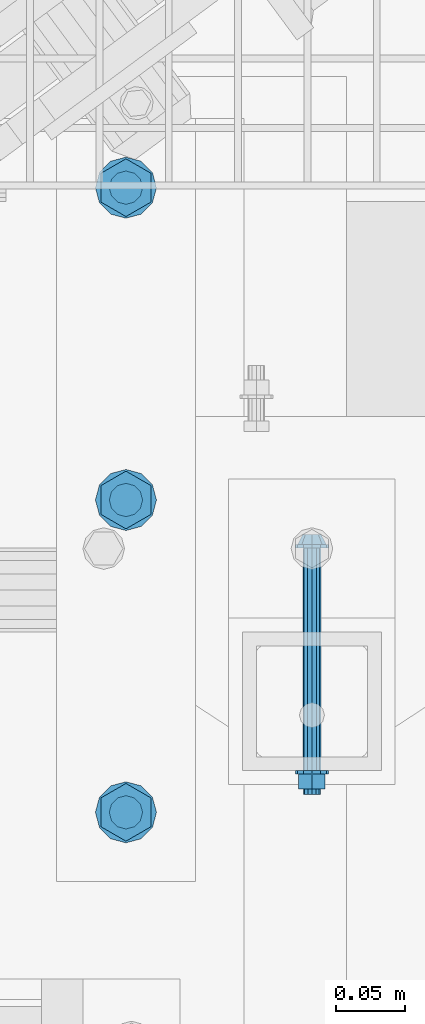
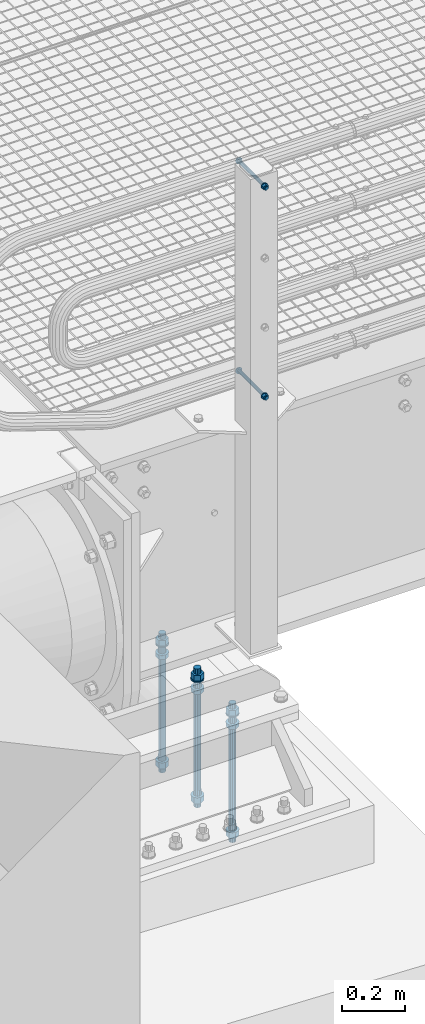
# One storey, part 5 of 1530: 4 mechanical fasteners.
"""IFC2X3 building model written with IfcOpenShell, lengths in millimetres."""

from ifc_helpers import new_model, si_unit, frame, origin_with_axes, place, context, subcontext, project, spatial, faceted_brep, source, transform, mapped, material, type_object, element, save


model = new_model("IFC2X3")

# Units and contexts
model_context = context("Model", 3, precision=1e-05, world=origin_with_axes())
body_context = subcontext(model_context, "Body", "Model", "MODEL_VIEW")
ifc_project = project(units=[si_unit("LENGTHUNIT", "METRE", prefix="MILLI"), si_unit("AREAUNIT", "SQUARE_METRE"), si_unit("VOLUMEUNIT", "CUBIC_METRE"), si_unit("MASSUNIT", "GRAM", prefix="KILO"), si_unit("TIMEUNIT", "SECOND"), si_unit("PLANEANGLEUNIT", "RADIAN"), si_unit("SOLIDANGLEUNIT", "STERADIAN"), si_unit("THERMODYNAMICTEMPERATUREUNIT", "DEGREE_CELSIUS"), si_unit("LUMINOUSINTENSITYUNIT", "LUMEN")], contexts=[model_context])

# Site, building, storey
site_placement = place(None, origin_with_axes())
site = spatial("IfcSite", under=ifc_project, at=site_placement, Name="Brattvåg", CompositionType="ELEMENT")
building_placement = place(site_placement, origin_with_axes())
building = spatial("IfcBuilding", under=site, at=building_placement, Name="Undefined", CompositionType="ELEMENT")
storey_placement = place(building_placement, origin_with_axes())
storey = spatial("IfcBuildingStorey", under=building, at=storey_placement, Name="Undefined", CompositionType="ELEMENT", Elevation=0.0)

# Mechanical fasteners
ifc_material = material(Name="8")
mechanical_fastener_type = type_object("IfcMechanicalFastenerType", Name="Bolt assembly")
shared_shape_1 = source(origin_with_axes(), body_context, "Body", "Brep", [
    faceted_brep([(20.7846096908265, -49.0000000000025, 0.0), (10.3923048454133, -49.0000000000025, 18.0), (-10.3923048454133, -49.0000000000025, 18.0), (-20.7846096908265, -49.0000000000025, 2.54538057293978e-15), (-10.3923048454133, -49.0000000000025, -18.0), (10.3923048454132, -49.0000000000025, -18.0), (10.3923048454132, -34.0000000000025, -18.0), (-10.3923048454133, -34.0000000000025, -18.0), (-20.7846096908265, -34.0000000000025, 2.54538057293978e-15), (-10.3923048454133, -34.0000000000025, 18.0), (10.3923048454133, -34.0000000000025, 18.0), (20.7846096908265, -34.0000000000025, 0.0), (12.0, -34.0000000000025, 0.0), (10.3923048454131, -34.0000000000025, 6.00000000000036), (5.99999999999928, -34.0000000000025, 10.3923048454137), (-1.24360317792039e-12, -34.0000000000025, 12.0), (-6.00000000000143, -34.0000000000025, 10.3923048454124), (-10.3923048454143, -34.0000000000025, 5.99999999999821), (-12.0, -34.0000000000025, -2.48720635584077e-12), (-10.3923048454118, -34.0000000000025, -6.00000000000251), (-5.99999999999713, -34.0000000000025, -10.3923048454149), (3.71748685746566e-12, -34.0000000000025, -12.0), (6.00000000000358, -34.0000000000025, -10.3923048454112), (10.3923048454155, -34.0000000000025, -5.99999999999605), (10.3923048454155, 46.0, -5.99999999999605), (6.00000000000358, 46.0, -10.3923048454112), (3.71748685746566e-12, 46.0, -12.0), (-5.99999999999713, 46.0, -10.3923048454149), (-10.3923048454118, 46.0, -6.00000000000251), (-12.0, 46.0, -2.48720635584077e-12), (-10.3923048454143, 46.0, 5.99999999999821), (-6.00000000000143, 46.0, 10.3923048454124), (-1.24360317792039e-12, 46.0, 12.0), (5.99999999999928, 46.0, 10.3923048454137), (10.3923048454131, 46.0, 6.00000000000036), (12.0, 46.0, 0.0), (22.0, -34.0000000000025, 0.0), (19.0525588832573, -34.0000000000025, 11.0000000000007), (10.9999999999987, -34.0000000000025, 19.0525588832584), (-2.27993915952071e-12, -34.0000000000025, 22.0), (-11.0000000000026, -34.0000000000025, 19.0525588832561), (-19.0525588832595, -34.0000000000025, 10.9999999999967), (-22.0, -34.0000000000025, -4.55987831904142e-12), (-19.052558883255, -34.0000000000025, -11.0000000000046), (-10.9999999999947, -34.0000000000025, -19.0525588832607), (6.81539257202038e-12, -34.0000000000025, -22.0), (11.0000000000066, -34.0000000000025, -19.0525588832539), (19.0525588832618, -34.0000000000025, -10.9999999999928), (19.0525588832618, -30.0000000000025, -10.9999999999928), (11.0000000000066, -30.0000000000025, -19.0525588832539), (6.81539257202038e-12, -30.0000000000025, -22.0), (-10.9999999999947, -30.0000000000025, -19.0525588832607), (-19.052558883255, -30.0000000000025, -11.0000000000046), (-22.0, -30.0000000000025, -4.55987831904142e-12), (-19.0525588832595, -30.0000000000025, 10.9999999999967), (-11.0000000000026, -30.0000000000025, 19.0525588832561), (-2.27993915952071e-12, -30.0000000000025, 22.0), (10.9999999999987, -30.0000000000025, 19.0525588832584), (19.0525588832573, -30.0000000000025, 11.0000000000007), (22.0, -30.0000000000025, 0.0), (22.0, 0.0, 0.0), (19.0525588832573, 0.0, 11.0000000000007), (10.9999999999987, 0.0, 19.0525588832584), (-2.27993915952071e-12, 0.0, 22.0), (-11.0000000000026, 0.0, 19.0525588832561), (-19.0525588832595, 0.0, 10.9999999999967), (-22.0, 0.0, -4.55987831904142e-12), (-19.052558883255, 0.0, -11.0000000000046), (-10.9999999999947, 0.0, -19.0525588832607), (6.81539257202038e-12, 0.0, -22.0), (11.0000000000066, 0.0, -19.0525588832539), (19.0525588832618, 0.0, -10.9999999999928), (19.0525588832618, 4.0, -10.9999999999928), (11.0000000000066, 4.0, -19.0525588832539), (6.81539257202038e-12, 4.0, -22.0), (-10.9999999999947, 4.0, -19.0525588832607), (-19.052558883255, 4.0, -11.0000000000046), (-22.0, 4.0, -4.55987831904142e-12), (-19.0525588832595, 4.0, 10.9999999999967), (-11.0000000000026, 4.0, 19.0525588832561), (-2.27993915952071e-12, 4.0, 22.0), (10.9999999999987, 4.0, 19.0525588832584), (19.0525588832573, 4.0, 11.0000000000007), (22.0, 4.0, 0.0), (20.7846096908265, 4.0, 0.0), (10.3923048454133, 4.0, 18.0), (-10.3923048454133, 4.0, 18.0), (-20.7846096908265, 4.0, 2.54538057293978e-15), (-10.3923048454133, 4.0, -18.0), (10.3923048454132, 4.0, -18.0), (10.3923048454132, 25.5, -18.0), (-10.3923048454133, 25.5, -18.0), (-20.7846096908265, 25.5, 2.54538057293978e-15), (-10.3923048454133, 25.5, 18.0), (10.3923048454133, 25.5, 18.0), (20.7846096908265, 25.5, 0.0)], [[[0, 1, 2, 3, 4, 5]], [[6, 7, 8, 9, 10, 11]], [[0, 11, 10, 1]], [[1, 10, 9, 2]], [[2, 9, 8, 3]], [[3, 8, 7, 4]], [[4, 7, 6, 5]], [[5, 6, 11, 0]], [[12, 13, 14, 15, 16, 17, 18, 19, 20, 21, 22, 23]], [[24, 25, 26, 27, 28, 29, 30, 31, 32, 33, 34, 35]], [[12, 35, 34, 13]], [[13, 34, 33, 14]], [[14, 33, 32, 15]], [[15, 32, 31, 16]], [[16, 31, 30, 17]], [[17, 30, 29, 18]], [[18, 29, 28, 19]], [[19, 28, 27, 20]], [[20, 27, 26, 21]], [[21, 26, 25, 22]], [[22, 25, 24, 23]], [[23, 24, 35, 12]], [[36, 37, 38, 39, 40, 41, 42, 43, 44, 45, 46, 47]], [[48, 49, 50, 51, 52, 53, 54, 55, 56, 57, 58, 59]], [[36, 59, 58, 37]], [[37, 58, 57, 38]], [[38, 57, 56, 39]], [[39, 56, 55, 40]], [[40, 55, 54, 41]], [[41, 54, 53, 42]], [[42, 53, 52, 43]], [[43, 52, 51, 44]], [[44, 51, 50, 45]], [[45, 50, 49, 46]], [[46, 49, 48, 47]], [[47, 48, 59, 36]], [[60, 61, 62, 63, 64, 65, 66, 67, 68, 69, 70, 71]], [[72, 73, 74, 75, 76, 77, 78, 79, 80, 81, 82, 83]], [[60, 83, 82, 61]], [[61, 82, 81, 62]], [[62, 81, 80, 63]], [[63, 80, 79, 64]], [[64, 79, 78, 65]], [[65, 78, 77, 66]], [[66, 77, 76, 67]], [[67, 76, 75, 68]], [[68, 75, 74, 69]], [[69, 74, 73, 70]], [[70, 73, 72, 71]], [[71, 72, 83, 60]], [[84, 85, 86, 87, 88, 89]], [[90, 91, 92, 93, 94, 95]], [[84, 95, 94, 85]], [[85, 94, 93, 86]], [[86, 93, 92, 87]], [[87, 92, 91, 88]], [[88, 91, 90, 89]], [[89, 90, 95, 84]]]),
    faceted_brep([(13.0, -30.0, 0.0), (11.2583302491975, -30.0, 6.50000000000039), (6.49999999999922, -30.0, 11.2583302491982), (-1.34723677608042e-12, -30.0, 13.0), (-6.50000000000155, -30.0, 11.2583302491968), (-11.2583302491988, -30.0, 6.49999999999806), (-13.0, -30.0, -2.69447355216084e-12), (-11.2583302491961, -30.0, -6.50000000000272), (-6.4999999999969, -30.0, -11.2583302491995), (4.02727742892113e-12, -30.0, -13.0), (6.50000000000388, -30.0, -11.2583302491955), (11.2583302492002, -30.0, -6.49999999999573), (11.2583302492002, 0.0999999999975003, -6.49999999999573), (6.50000000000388, 0.0999999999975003, -11.2583302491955), (4.02727742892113e-12, 0.0999999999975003, -13.0), (-6.4999999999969, 0.0999999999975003, -11.2583302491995), (-11.2583302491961, 0.0999999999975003, -6.50000000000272), (-13.0, 0.0999999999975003, -2.69447355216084e-12), (-11.2583302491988, 0.0999999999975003, 6.49999999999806), (-6.50000000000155, 0.0999999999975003, 11.2583302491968), (-1.34723677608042e-12, 0.0999999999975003, 13.0), (6.49999999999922, 0.0999999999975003, 11.2583302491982), (11.2583302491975, 0.0999999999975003, 6.50000000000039), (13.0, 0.0999999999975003, 0.0)], [[[0, 1, 2, 3, 4, 5, 6, 7, 8, 9, 10, 11]], [[12, 13, 14, 15, 16, 17, 18, 19, 20, 21, 22, 23]], [[0, 23, 22, 1]], [[1, 22, 21, 2]], [[2, 21, 20, 3]], [[3, 20, 19, 4]], [[4, 19, 18, 5]], [[5, 18, 17, 6]], [[6, 17, 16, 7]], [[7, 16, 15, 8]], [[8, 15, 14, 9]], [[9, 14, 13, 10]], [[10, 13, 12, 11]], [[11, 12, 23, 0]]]),
])
mechanical_fastener_1_placement = place(storey_placement, frame((416.009799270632, 160.001182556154, -1028.00001144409), z_axis=(-1.0, 1.99999855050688e-09, 0.0), x_axis=(0.0, -1.0, 0.0)))
element("IfcMechanicalFastener", 1, at=mechanical_fastener_1_placement, inside=storey, type_object=mechanical_fastener_type, material=ifc_material, Name="Bolt assembly", NominalDiameter=24.0, NominalLength=80.0, context=body_context, shape_type="MappedRepresentation", body=[
    mapped(shared_shape_1, transform((0.0, 0.0, 0.0))),
    mapped(shared_shape_1, transform((225.0, 0.0, 0.0))),
    mapped(shared_shape_1, transform((450.0, 0.0, 0.0))),
])
shared_shape_2 = source(origin_with_axes(), body_context, "Body", "Brep", [
    faceted_brep([(20.7846096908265, -19.0, 0.0), (10.3923048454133, -19.0, 18.0), (-10.3923048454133, -19.0, 18.0), (-20.7846096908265, -19.0, 2.54538057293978e-15), (-10.3923048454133, -19.0, -18.0), (10.3923048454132, -19.0, -18.0), (10.3923048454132, -4.0, -18.0), (-10.3923048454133, -4.0, -18.0), (-20.7846096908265, -4.0, 2.54538057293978e-15), (-10.3923048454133, -4.0, 18.0), (10.3923048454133, -4.0, 18.0), (20.7846096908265, -4.0, 0.0), (12.0, -4.0, 0.0), (10.3923048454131, -4.0, 6.00000000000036), (5.99999999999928, -4.0, 10.3923048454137), (-1.24360317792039e-12, -4.0, 12.0), (-6.00000000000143, -4.0, 10.3923048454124), (-10.3923048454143, -4.0, 5.99999999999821), (-12.0, -4.0, -2.48720635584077e-12), (-10.3923048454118, -4.0, -6.00000000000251), (-5.99999999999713, -4.0, -10.3923048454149), (3.71748685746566e-12, -4.0, -12.0), (6.00000000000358, -4.0, -10.3923048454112), (10.3923048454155, -4.0, -5.99999999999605), (10.3923048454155, 496.0, -5.99999999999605), (6.00000000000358, 496.0, -10.3923048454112), (3.71748685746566e-12, 496.0, -12.0), (-5.99999999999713, 496.0, -10.3923048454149), (-10.3923048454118, 496.0, -6.00000000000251), (-12.0, 496.0, -2.48720635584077e-12), (-10.3923048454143, 496.0, 5.99999999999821), (-6.00000000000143, 496.0, 10.3923048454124), (-1.24360317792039e-12, 496.0, 12.0), (5.99999999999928, 496.0, 10.3923048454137), (10.3923048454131, 496.0, 6.00000000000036), (12.0, 496.0, 0.0), (22.0, -4.0, 0.0), (19.0525588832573, -4.0, 11.0000000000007), (10.9999999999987, -4.0, 19.0525588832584), (-2.27993915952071e-12, -4.0, 22.0), (-11.0000000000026, -4.0, 19.0525588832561), (-19.0525588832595, -4.0, 10.9999999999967), (-22.0, -4.0, -4.55987831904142e-12), (-19.052558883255, -4.0, -11.0000000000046), (-10.9999999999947, -4.0, -19.0525588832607), (6.81539257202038e-12, -4.0, -22.0), (11.0000000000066, -4.0, -19.0525588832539), (19.0525588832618, -4.0, -10.9999999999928), (19.0525588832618, 0.0, -10.9999999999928), (11.0000000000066, 0.0, -19.0525588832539), (6.81539257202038e-12, 0.0, -22.0), (-10.9999999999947, 0.0, -19.0525588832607), (-19.052558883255, 0.0, -11.0000000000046), (-22.0, 0.0, -4.55987831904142e-12), (-19.0525588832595, 0.0, 10.9999999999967), (-11.0000000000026, 0.0, 19.0525588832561), (-2.27993915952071e-12, 0.0, 22.0), (10.9999999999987, 0.0, 19.0525588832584), (19.0525588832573, 0.0, 11.0000000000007), (22.0, 0.0, 0.0), (22.0, 450.00030517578, 0.0), (19.0525588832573, 450.00030517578, 11.0000000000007), (10.9999999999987, 450.00030517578, 19.0525588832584), (-2.27993915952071e-12, 450.00030517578, 22.0), (-11.0000000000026, 450.00030517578, 19.0525588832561), (-19.0525588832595, 450.00030517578, 10.9999999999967), (-22.0, 450.00030517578, -4.55987831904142e-12), (-19.052558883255, 450.00030517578, -11.0000000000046), (-10.9999999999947, 450.00030517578, -19.0525588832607), (6.81539257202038e-12, 450.00030517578, -22.0), (11.0000000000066, 450.00030517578, -19.0525588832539), (19.0525588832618, 450.00030517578, -10.9999999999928), (19.0525588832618, 454.00030517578, -10.9999999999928), (11.0000000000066, 454.00030517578, -19.0525588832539), (6.81539257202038e-12, 454.00030517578, -22.0), (-10.9999999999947, 454.00030517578, -19.0525588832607), (-19.052558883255, 454.00030517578, -11.0000000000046), (-22.0, 454.00030517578, -4.55987831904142e-12), (-19.0525588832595, 454.00030517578, 10.9999999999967), (-11.0000000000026, 454.00030517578, 19.0525588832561), (-2.27993915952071e-12, 454.00030517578, 22.0), (10.9999999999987, 454.00030517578, 19.0525588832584), (19.0525588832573, 454.00030517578, 11.0000000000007), (22.0, 454.00030517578, 0.0), (20.7846096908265, 454.00030517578, 0.0), (10.3923048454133, 454.00030517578, 18.0), (-10.3923048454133, 454.00030517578, 18.0), (-20.7846096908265, 454.00030517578, 2.54538057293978e-15), (-10.3923048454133, 454.00030517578, -18.0), (10.3923048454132, 454.00030517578, -18.0), (10.3923048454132, 475.50030517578, -18.0), (-10.3923048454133, 475.50030517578, -18.0), (-20.7846096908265, 475.50030517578, 2.54538057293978e-15), (-10.3923048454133, 475.50030517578, 18.0), (10.3923048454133, 475.50030517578, 18.0), (20.7846096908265, 475.50030517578, 0.0)], [[[0, 1, 2, 3, 4, 5]], [[6, 7, 8, 9, 10, 11]], [[0, 11, 10, 1]], [[1, 10, 9, 2]], [[2, 9, 8, 3]], [[3, 8, 7, 4]], [[4, 7, 6, 5]], [[5, 6, 11, 0]], [[12, 13, 14, 15, 16, 17, 18, 19, 20, 21, 22, 23]], [[24, 25, 26, 27, 28, 29, 30, 31, 32, 33, 34, 35]], [[12, 35, 34, 13]], [[13, 34, 33, 14]], [[14, 33, 32, 15]], [[15, 32, 31, 16]], [[16, 31, 30, 17]], [[17, 30, 29, 18]], [[18, 29, 28, 19]], [[19, 28, 27, 20]], [[20, 27, 26, 21]], [[21, 26, 25, 22]], [[22, 25, 24, 23]], [[23, 24, 35, 12]], [[36, 37, 38, 39, 40, 41, 42, 43, 44, 45, 46, 47]], [[48, 49, 50, 51, 52, 53, 54, 55, 56, 57, 58, 59]], [[36, 59, 58, 37]], [[37, 58, 57, 38]], [[38, 57, 56, 39]], [[39, 56, 55, 40]], [[40, 55, 54, 41]], [[41, 54, 53, 42]], [[42, 53, 52, 43]], [[43, 52, 51, 44]], [[44, 51, 50, 45]], [[45, 50, 49, 46]], [[46, 49, 48, 47]], [[47, 48, 59, 36]], [[60, 61, 62, 63, 64, 65, 66, 67, 68, 69, 70, 71]], [[72, 73, 74, 75, 76, 77, 78, 79, 80, 81, 82, 83]], [[60, 83, 82, 61]], [[61, 82, 81, 62]], [[62, 81, 80, 63]], [[63, 80, 79, 64]], [[64, 79, 78, 65]], [[65, 78, 77, 66]], [[66, 77, 76, 67]], [[67, 76, 75, 68]], [[68, 75, 74, 69]], [[69, 74, 73, 70]], [[70, 73, 72, 71]], [[71, 72, 83, 60]], [[84, 85, 86, 87, 88, 89]], [[90, 91, 92, 93, 94, 95]], [[84, 95, 94, 85]], [[85, 94, 93, 86]], [[86, 93, 92, 87]], [[87, 92, 91, 88]], [[88, 91, 90, 89]], [[89, 90, 95, 84]]]),
    faceted_brep([(13.0, 0.0999999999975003, 0.0), (11.2583302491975, 0.0999999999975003, 6.50000000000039), (6.49999999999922, 0.0999999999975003, 11.2583302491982), (-1.34723677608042e-12, 0.0999999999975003, 13.0), (-6.50000000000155, 0.0999999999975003, 11.2583302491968), (-11.2583302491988, 0.0999999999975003, 6.49999999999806), (-13.0, 0.0999999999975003, -2.69447355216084e-12), (-11.2583302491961, 0.0999999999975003, -6.50000000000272), (-6.4999999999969, 0.0999999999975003, -11.2583302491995), (4.02727742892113e-12, 0.0999999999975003, -13.0), (6.50000000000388, 0.0999999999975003, -11.2583302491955), (11.2583302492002, 0.0999999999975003, -6.49999999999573), (11.2583302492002, 30.1, -6.49999999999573), (6.50000000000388, 30.1, -11.2583302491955), (4.02727742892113e-12, 30.1, -13.0), (-6.4999999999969, 30.1, -11.2583302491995), (-11.2583302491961, 30.1, -6.50000000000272), (-13.0, 30.1, -2.69447355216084e-12), (-11.2583302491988, 30.1, 6.49999999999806), (-6.50000000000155, 30.1, 11.2583302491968), (-1.34723677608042e-12, 30.1, 13.0), (6.49999999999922, 30.1, 11.2583302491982), (11.2583302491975, 30.1, 6.50000000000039), (13.0, 30.1, 0.0), (13.0, 429.90030517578, 0.0), (11.2583302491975, 429.90030517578, 6.50000000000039), (6.49999999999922, 429.90030517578, 11.2583302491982), (-1.34723677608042e-12, 429.90030517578, 13.0), (-6.50000000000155, 429.90030517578, 11.2583302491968), (-11.2583302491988, 429.90030517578, 6.49999999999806), (-13.0, 429.90030517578, -2.69447355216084e-12), (-11.2583302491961, 429.90030517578, -6.50000000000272), (-6.4999999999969, 429.90030517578, -11.2583302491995), (4.02727742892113e-12, 429.90030517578, -13.0), (6.50000000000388, 429.90030517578, -11.2583302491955), (11.2583302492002, 429.90030517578, -6.49999999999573), (11.2583302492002, 450.00030517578, -6.49999999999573), (6.50000000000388, 450.00030517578, -11.2583302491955), (4.02727742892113e-12, 450.00030517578, -13.0), (-6.4999999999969, 450.00030517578, -11.2583302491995), (-11.2583302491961, 450.00030517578, -6.50000000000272), (-13.0, 450.00030517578, -2.69447355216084e-12), (-11.2583302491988, 450.00030517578, 6.49999999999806), (-6.50000000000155, 450.00030517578, 11.2583302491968), (-1.34723677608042e-12, 450.00030517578, 13.0), (6.49999999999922, 450.00030517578, 11.2583302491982), (11.2583302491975, 450.00030517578, 6.50000000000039), (13.0, 450.00030517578, 0.0)], [[[0, 1, 2, 3, 4, 5, 6, 7, 8, 9, 10, 11]], [[12, 13, 14, 15, 16, 17, 18, 19, 20, 21, 22, 23]], [[0, 23, 22, 1]], [[1, 22, 21, 2]], [[2, 21, 20, 3]], [[3, 20, 19, 4]], [[4, 19, 18, 5]], [[5, 18, 17, 6]], [[6, 17, 16, 7]], [[7, 16, 15, 8]], [[8, 15, 14, 9]], [[9, 14, 13, 10]], [[10, 13, 12, 11]], [[11, 12, 23, 0]], [[24, 25, 26, 27, 28, 29, 30, 31, 32, 33, 34, 35]], [[36, 37, 38, 39, 40, 41, 42, 43, 44, 45, 46, 47]], [[24, 47, 46, 25]], [[25, 46, 45, 26]], [[26, 45, 44, 27]], [[27, 44, 43, 28]], [[28, 43, 42, 29]], [[29, 42, 41, 30]], [[30, 41, 40, 31]], [[31, 40, 39, 32]], [[32, 39, 38, 33]], [[33, 38, 37, 34]], [[34, 37, 36, 35]], [[35, 36, 47, 24]]]),
])
mechanical_fastener_2_placement = place(storey_placement, frame((416.009799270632, 160.001182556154, -1028.00001144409), z_axis=(1.0, 0.0, 0.0), x_axis=(0.0, -1.0, 0.0)))
element("IfcMechanicalFastener", 2, at=mechanical_fastener_2_placement, inside=storey, type_object=mechanical_fastener_type, material=ifc_material, Name="Bolt assembly", NominalDiameter=24.0, NominalLength=500.0, context=body_context, shape_type="MappedRepresentation", body=[
    mapped(shared_shape_2, transform((0.0, 0.0, 0.0))),
    mapped(shared_shape_2, transform((225.0, 0.0, 0.0))),
    mapped(shared_shape_2, transform((450.0, 0.0, 0.0))),
])
shared_shape_3 = source(origin_with_axes(), body_context, "Body", "Brep", [
    faceted_brep([(6.49435320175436, -9.99984019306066, 0.0), (4.59220118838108, -9.99984019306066, 4.59220118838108), (3.97664443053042e-16, -9.99984019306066, 6.49435320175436), (-4.59220118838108, -9.99984019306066, 4.59220118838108), (-6.49435320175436, -9.99984019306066, 7.95328886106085e-16), (-4.59220118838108, -9.99984019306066, -4.59220118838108), (-1.19299332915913e-15, -9.99984019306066, -6.49435320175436), (4.59220118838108, -9.99984019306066, -4.59220118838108), (7.34846922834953, -2.49984019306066, -7.34846922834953), (-1.90903542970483e-15, -2.49984019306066, -10.3923048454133), (-7.34846922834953, -2.49984019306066, -7.34846922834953), (-10.3923048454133, -2.49984019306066, 1.27269028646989e-15), (-7.34846922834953, -2.49984019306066, 7.34846922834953), (6.36345143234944e-16, -2.49984019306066, 10.3923048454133), (7.34846922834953, -2.49984019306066, 7.34846922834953), (10.3923048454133, -2.49984019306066, 0.0), (6.0, -2.49984019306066, 0.0), (5.19615242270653, -2.49984019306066, 3.00000000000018), (2.99999999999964, -2.49984019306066, 5.19615242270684), (-6.21801588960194e-13, -2.49984019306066, 6.0), (-3.00000000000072, -2.49984019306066, 5.19615242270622), (-5.19615242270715, -2.49984019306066, 2.9999999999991), (-6.0, -2.49984019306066, -1.24360317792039e-12), (-5.19615242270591, -2.49984019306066, -3.00000000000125), (-2.99999999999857, -2.49984019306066, -5.19615242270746), (1.85874342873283e-12, -2.49984019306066, -6.0), (3.00000000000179, -2.49984019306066, -5.1961524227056), (5.19615242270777, -2.49984019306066, -2.99999999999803), (5.19615242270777, 177.500159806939, -2.99999999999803), (3.00000000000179, 177.500159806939, -5.1961524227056), (1.85874342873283e-12, 177.500159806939, -6.0), (-2.99999999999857, 177.500159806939, -5.19615242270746), (-5.19615242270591, 177.500159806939, -3.00000000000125), (-6.0, 177.500159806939, -1.24360317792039e-12), (-5.19615242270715, 177.500159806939, 2.9999999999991), (-3.00000000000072, 177.500159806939, 5.19615242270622), (-6.21801588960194e-13, 177.500159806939, 6.0), (2.99999999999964, 177.500159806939, 5.19615242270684), (5.19615242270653, 177.500159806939, 3.00000000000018), (6.0, 177.500159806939, 0.0), (12.0, -2.49984019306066, 0.0), (10.3923048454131, -2.49984019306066, 6.00000000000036), (5.99999999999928, -2.49984019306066, 10.3923048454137), (-1.24360317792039e-12, -2.49984019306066, 12.0), (-6.00000000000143, -2.49984019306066, 10.3923048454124), (-10.3923048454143, -2.49984019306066, 5.99999999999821), (-12.0, -2.49984019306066, -2.48720635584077e-12), (-10.3923048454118, -2.49984019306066, -6.00000000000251), (-5.99999999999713, -2.49984019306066, -10.3923048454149), (3.71748685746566e-12, -2.49984019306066, -12.0), (6.00000000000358, -2.49984019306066, -10.3923048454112), (10.3923048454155, -2.49984019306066, -5.99999999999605), (10.3923048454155, 0.000159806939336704, -5.99999999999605), (6.00000000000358, 0.000159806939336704, -10.3923048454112), (3.71748685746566e-12, 0.000159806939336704, -12.0), (-5.99999999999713, 0.000159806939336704, -10.3923048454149), (-10.3923048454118, 0.000159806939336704, -6.00000000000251), (-12.0, 0.000159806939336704, -2.48720635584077e-12), (-10.3923048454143, 0.000159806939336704, 5.99999999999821), (-6.00000000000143, 0.000159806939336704, 10.3923048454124), (-1.24360317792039e-12, 0.000159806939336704, 12.0), (5.99999999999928, 0.000159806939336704, 10.3923048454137), (10.3923048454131, 0.000159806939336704, 6.00000000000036), (12.0, 0.000159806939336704, 0.0), (12.0, 160.299998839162, 0.0), (10.3923048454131, 160.299998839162, 6.00000000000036), (5.99999999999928, 160.299998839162, 10.3923048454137), (-1.24360317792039e-12, 160.299998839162, 12.0), (-6.00000000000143, 160.299998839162, 10.3923048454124), (-10.3923048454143, 160.299998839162, 5.99999999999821), (-12.0, 160.299998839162, -2.48720635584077e-12), (-10.3923048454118, 160.299998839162, -6.00000000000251), (-5.99999999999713, 160.299998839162, -10.3923048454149), (3.71748685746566e-12, 160.299998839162, -12.0), (6.00000000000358, 160.299998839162, -10.3923048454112), (10.3923048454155, 160.299998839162, -5.99999999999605), (10.3923048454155, 162.799998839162, -5.99999999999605), (6.00000000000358, 162.799998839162, -10.3923048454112), (3.71748685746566e-12, 162.799998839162, -12.0), (-5.99999999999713, 162.799998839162, -10.3923048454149), (-10.3923048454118, 162.799998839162, -6.00000000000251), (-12.0, 162.799998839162, -2.48720635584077e-12), (-10.3923048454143, 162.799998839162, 5.99999999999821), (-6.00000000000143, 162.799998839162, 10.3923048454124), (-1.24360317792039e-12, 162.799998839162, 12.0), (5.99999999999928, 162.799998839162, 10.3923048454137), (10.3923048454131, 162.799998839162, 6.00000000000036), (12.0, 162.799998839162, 0.0), (10.9696551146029, 162.799998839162, 0.0), (5.48482755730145, 162.799998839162, 9.5), (-5.48482755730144, 162.799998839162, 9.5), (-10.9696551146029, 162.799998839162, 1.34339530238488e-15), (-5.48482755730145, 162.799998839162, -9.5), (5.48482755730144, 162.799998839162, -9.5), (5.48482755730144, 173.599999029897, -9.5), (-5.48482755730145, 173.599999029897, -9.5), (-10.9696551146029, 173.599999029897, 1.34339530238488e-15), (-5.48482755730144, 173.599999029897, 9.5), (5.48482755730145, 173.599999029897, 9.5), (10.9696551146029, 173.599999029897, 0.0)], [[[0, 1, 2, 3, 4, 5, 6, 7]], [[8, 9, 10, 11, 12, 13, 14, 15]], [[0, 15, 14, 1]], [[1, 14, 13, 2]], [[2, 13, 12, 3]], [[3, 12, 11, 4]], [[4, 11, 10, 5]], [[5, 10, 9, 6]], [[6, 9, 8, 7]], [[7, 8, 15, 0]], [[16, 17, 18, 19, 20, 21, 22, 23, 24, 25, 26, 27]], [[28, 29, 30, 31, 32, 33, 34, 35, 36, 37, 38, 39]], [[16, 39, 38, 17]], [[17, 38, 37, 18]], [[18, 37, 36, 19]], [[19, 36, 35, 20]], [[20, 35, 34, 21]], [[21, 34, 33, 22]], [[22, 33, 32, 23]], [[23, 32, 31, 24]], [[24, 31, 30, 25]], [[25, 30, 29, 26]], [[26, 29, 28, 27]], [[27, 28, 39, 16]], [[40, 41, 42, 43, 44, 45, 46, 47, 48, 49, 50, 51]], [[52, 53, 54, 55, 56, 57, 58, 59, 60, 61, 62, 63]], [[40, 63, 62, 41]], [[41, 62, 61, 42]], [[42, 61, 60, 43]], [[43, 60, 59, 44]], [[44, 59, 58, 45]], [[45, 58, 57, 46]], [[46, 57, 56, 47]], [[47, 56, 55, 48]], [[48, 55, 54, 49]], [[49, 54, 53, 50]], [[50, 53, 52, 51]], [[51, 52, 63, 40]], [[64, 65, 66, 67, 68, 69, 70, 71, 72, 73, 74, 75]], [[76, 77, 78, 79, 80, 81, 82, 83, 84, 85, 86, 87]], [[64, 87, 86, 65]], [[65, 86, 85, 66]], [[66, 85, 84, 67]], [[67, 84, 83, 68]], [[68, 83, 82, 69]], [[69, 82, 81, 70]], [[70, 81, 80, 71]], [[71, 80, 79, 72]], [[72, 79, 78, 73]], [[73, 78, 77, 74]], [[74, 77, 76, 75]], [[75, 76, 87, 64]], [[88, 89, 90, 91, 92, 93]], [[94, 95, 96, 97, 98, 99]], [[88, 99, 98, 89]], [[89, 98, 97, 90]], [[90, 97, 96, 91]], [[91, 96, 95, 92]], [[92, 95, 94, 93]], [[93, 94, 99, 88]]]),
    faceted_brep([(6.5, 0.100159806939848, 0.0), (5.62916512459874, 0.100159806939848, 3.25000000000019), (3.24999999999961, 0.100159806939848, 5.62916512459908), (-6.7361838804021e-13, 0.100159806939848, 6.5), (-3.25000000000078, 0.100159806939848, 5.6291651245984), (-5.62916512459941, 0.100159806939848, 3.24999999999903), (-6.5, 0.100159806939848, -1.34723677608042e-12), (-5.62916512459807, 0.100159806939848, -3.25000000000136), (-3.24999999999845, 0.100159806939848, -5.62916512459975), (2.01363871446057e-12, 0.100159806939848, -6.5), (3.25000000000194, 0.100159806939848, -5.62916512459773), (5.62916512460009, 0.100159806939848, -3.24999999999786), (5.62916512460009, 60.4001552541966, -3.24999999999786), (3.25000000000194, 60.4001552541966, -5.62916512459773), (2.01363871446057e-12, 60.4001552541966, -6.5), (-3.24999999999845, 60.4001552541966, -5.62916512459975), (-5.62916512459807, 60.4001552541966, -3.25000000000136), (-6.5, 60.4001552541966, -1.34723677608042e-12), (-5.62916512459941, 60.4001552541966, 3.24999999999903), (-3.25000000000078, 60.4001552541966, 5.6291651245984), (-6.7361838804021e-13, 60.4001552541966, 6.5), (3.24999999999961, 60.4001552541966, 5.62916512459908), (5.62916512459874, 60.4001552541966, 3.25000000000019), (6.5, 60.4001552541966, 0.0), (6.5, 60.1999988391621, 0.0), (5.62916512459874, 60.1999988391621, 3.25000000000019), (3.24999999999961, 60.1999988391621, 5.62916512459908), (-6.7361838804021e-13, 60.1999988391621, 6.5), (-3.25000000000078, 60.1999988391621, 5.6291651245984), (-5.62916512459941, 60.1999988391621, 3.24999999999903), (-6.5, 60.1999988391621, -1.34723677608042e-12), (-5.62916512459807, 60.1999988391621, -3.25000000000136), (-3.24999999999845, 60.1999988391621, -5.62916512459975), (2.01363871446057e-12, 60.1999988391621, -6.5), (3.25000000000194, 60.1999988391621, -5.62916512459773), (5.62916512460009, 60.1999988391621, -3.24999999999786), (5.62916512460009, 160.299998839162, -3.24999999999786), (3.25000000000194, 160.299998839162, -5.62916512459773), (2.01363871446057e-12, 160.299998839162, -6.5), (-3.24999999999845, 160.299998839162, -5.62916512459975), (-5.62916512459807, 160.299998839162, -3.25000000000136), (-6.5, 160.299998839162, -1.34723677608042e-12), (-5.62916512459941, 160.299998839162, 3.24999999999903), (-3.25000000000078, 160.299998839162, 5.6291651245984), (-6.7361838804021e-13, 160.299998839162, 6.5), (3.24999999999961, 160.299998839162, 5.62916512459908), (5.62916512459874, 160.299998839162, 3.25000000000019), (6.5, 160.299998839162, 0.0)], [[[0, 1, 2, 3, 4, 5, 6, 7, 8, 9, 10, 11]], [[12, 13, 14, 15, 16, 17, 18, 19, 20, 21, 22, 23]], [[0, 23, 22, 1]], [[1, 22, 21, 2]], [[2, 21, 20, 3]], [[3, 20, 19, 4]], [[4, 19, 18, 5]], [[5, 18, 17, 6]], [[6, 17, 16, 7]], [[7, 16, 15, 8]], [[8, 15, 14, 9]], [[9, 14, 13, 10]], [[10, 13, 12, 11]], [[11, 12, 23, 0]], [[24, 25, 26, 27, 28, 29, 30, 31, 32, 33, 34, 35]], [[36, 37, 38, 39, 40, 41, 42, 43, 44, 45, 46, 47]], [[24, 47, 46, 25]], [[25, 46, 45, 26]], [[26, 45, 44, 27]], [[27, 44, 43, 28]], [[28, 43, 42, 29]], [[29, 42, 41, 30]], [[30, 41, 40, 31]], [[31, 40, 39, 32]], [[32, 39, 38, 33]], [[33, 38, 37, 34]], [[34, 37, 36, 35]], [[35, 36, 47, 24]]]),
])
for number, where, z_axis, x_axis, name in (
    (3, (549.999999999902, -99.6997226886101, 149.550000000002), (-1.0, 1.99999855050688e-09, 0.0), (0.0, 0.0, -1.0), "Bolt assembly"),
    (4, (549.999999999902, -99.6997226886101, 969.550000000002), (-1.0, 1.99999855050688e-09, 0.0), (0.0, 0.0, -1.0), "Bolt assembly"),
):
    element("IfcMechanicalFastener", number, at=place(storey_placement, frame(where, z_axis=z_axis, x_axis=x_axis)), inside=storey, type_object=mechanical_fastener_type, material=ifc_material, Name=name, NominalDiameter=12.0, NominalLength=180.0, context=body_context, shape_type="MappedRepresentation", body=[
        mapped(shared_shape_3, transform((0.0, 0.0, 0.0))),
    ])

save(model, "model.ifc")
